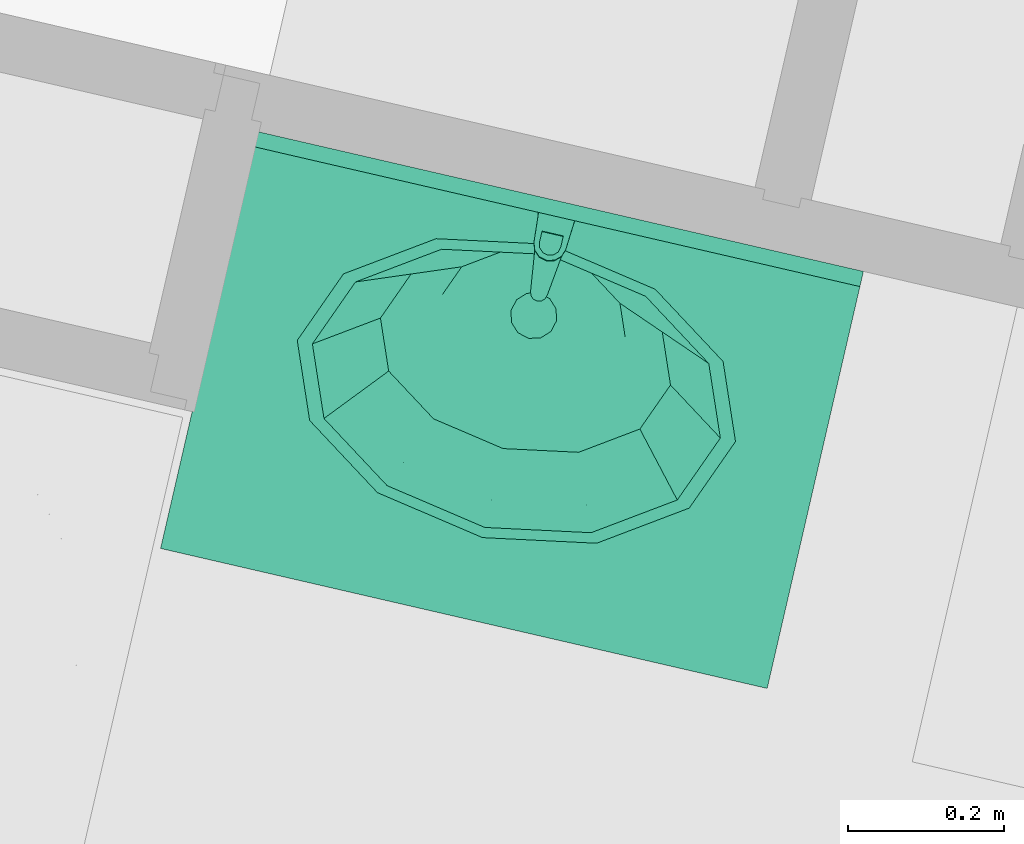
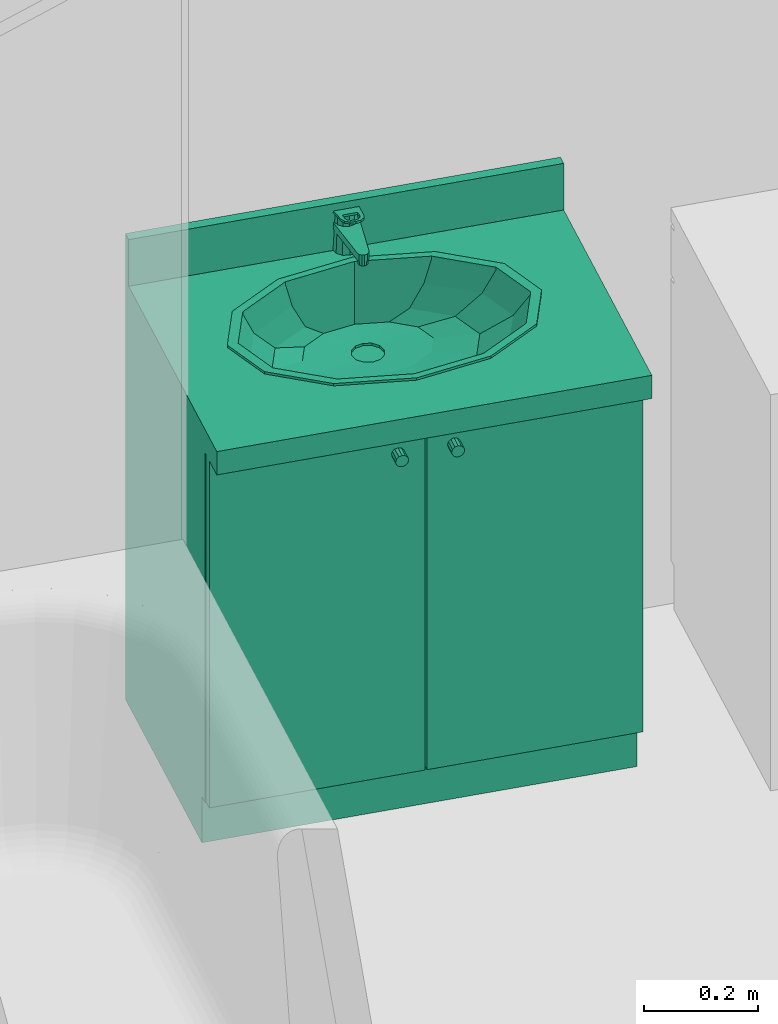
# One storey, part 47 of 62: 1 flow terminal.
"""IFC2X3 building model written with IfcOpenShell, lengths in metres."""

from ifc_helpers import new_model, entity, si_unit, converted_unit, derived_unit, money_unit, direction, frame, origin_with_axes, place, context, subcontext, project, spatial, open_shell, faceted_brep, surface_model, source, transform, mapped, type_object, element, save


model = new_model("IFC2X3")

# Units and contexts
model_context = context("Model", 3, precision=1e-05, world=origin_with_axes(), true_north=direction((0.0, 1.0)))
body_context = subcontext(model_context, "Body", "Model", "MODEL_VIEW")
ifc_project = project(units=[si_unit("LENGTHUNIT", "METRE"), si_unit("AREAUNIT", "SQUARE_METRE"), si_unit("VOLUMEUNIT", "CUBIC_METRE"), converted_unit("PLANEANGLEUNIT", "DEGREE", entity("IfcPlaneAngleMeasure", 0.0174532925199), si_unit("PLANEANGLEUNIT", "RADIAN"), dimensions=[0, 0, 0, 0, 0, 0, 0]), si_unit("SOLIDANGLEUNIT", "STERADIAN"), money_unit("EUR"), converted_unit("TIMEUNIT", "Year", entity("IfcTimeMeasure", 31556926.0), si_unit("TIMEUNIT", "SECOND"), dimensions=[0, 0, 1, 0, 0, 0, 0]), si_unit("MASSUNIT", "GRAM", prefix="KILO"), si_unit("THERMODYNAMICTEMPERATUREUNIT", "DEGREE_CELSIUS"), si_unit("LUMINOUSINTENSITYUNIT", "LUMEN"), si_unit("ENERGYUNIT", "JOULE", prefix="MEGA"), derived_unit("THERMALCONDUCTANCEUNIT", [(si_unit("POWERUNIT", "WATT"), 1), (si_unit("LENGTHUNIT", "METRE"), -1), (si_unit("THERMODYNAMICTEMPERATUREUNIT", "KELVIN"), -1)]), derived_unit("SPECIFICHEATCAPACITYUNIT", [(si_unit("ENERGYUNIT", "JOULE"), 1), (si_unit("MASSUNIT", "GRAM", prefix="KILO"), -1), (si_unit("THERMODYNAMICTEMPERATUREUNIT", "KELVIN"), -1)]), derived_unit("MASSDENSITYUNIT", [(si_unit("MASSUNIT", "GRAM", prefix="KILO"), 1), (si_unit("VOLUMEUNIT", "CUBIC_METRE"), -1)])], contexts=[model_context])

# Site, building, storey
site_placement = place(None, origin_with_axes())
site = spatial("IfcSite", under=ifc_project, at=site_placement, Name="Site", CompositionType="ELEMENT")
building_placement = place(site_placement, origin_with_axes())
building = spatial("IfcBuilding", under=site, at=building_placement, Name="Bâtiment", CompositionType="ELEMENT")
storey_placement = place(building_placement, frame((0.0, 0.0, 8.16), z_axis=(0.0, 0.0, 1.0), x_axis=(1.0, 0.0, 0.0)))
storey = spatial("IfcBuildingStorey", under=building, at=storey_placement, Name="R+3", CompositionType="ELEMENT", Elevation=8.16)

# Flow terminal
sanitary_terminal_type = type_object("IfcSanitaryTerminalType", Name="Lavabo sur meuble 23", PredefinedType="NOTDEFINED")
shared_shape = source(origin_with_axes(), body_context, "Body", "SurfaceModel", [
    faceted_brep([(0.0, 0.09, 0.0), (0.0, 0.09, 0.1), (-0.8, 0.09, 0.1), (-0.8, 0.09, 0.0), (0.0, 0.55, 0.0), (0.0, 0.55, 0.1), (-0.8, 0.55, 0.1), (-0.8, 0.55, 0.0)], [[[0, 1, 2, 3]], [[4, 5, 1, 0]], [[1, 5, 6, 2]], [[3, 2, 6, 7]], [[0, 3, 7, 4]], [[7, 6, 5, 4]]]),
    faceted_brep([(0.0, 0.07, 0.1), (0.0, 0.07, 0.12), (-0.02, 0.07, 0.12), (-0.02, 0.07, 0.1), (0.0, 0.55, 0.1), (0.0, 0.55, 0.12), (-0.02, 0.55, 0.12), (-0.78, 0.55, 0.12), (-0.8, 0.55, 0.12), (-0.8, 0.07, 0.12), (-0.78, 0.07, 0.12), (-0.78, 0.07, 0.1), (-0.8, 0.07, 0.1), (-0.8, 0.55, 0.1), (-0.78, 0.55, 0.1), (-0.02, 0.55, 0.1)], [[[0, 1, 2, 3]], [[4, 5, 1, 0]], [[1, 5, 6, 7, 8, 9, 10, 2]], [[3, 2, 10, 11]], [[0, 3, 11, 12, 13, 14, 15, 4]], [[15, 6, 5, 4]], [[14, 7, 6, 15]], [[13, 8, 7, 14]], [[12, 9, 8, 13]], [[11, 10, 9, 12]]]),
    faceted_brep([(0.0, 0.07, 0.12), (0.0, 0.07, 0.85), (-0.02, 0.07, 0.85), (-0.02, 0.07, 0.12), (0.0, 0.55, 0.12), (0.0, 0.55, 0.85), (-0.8, 0.55, 0.85), (-0.8, 0.07, 0.85), (-0.78, 0.07, 0.85), (-0.78, 0.53, 0.85), (-0.02, 0.53, 0.85), (-0.02, 0.53, 0.12), (-0.78, 0.53, 0.12), (-0.78, 0.07, 0.12), (-0.8, 0.07, 0.12), (-0.8, 0.55, 0.12)], [[[0, 1, 2, 3]], [[4, 5, 1, 0]], [[1, 5, 6, 7, 8, 9, 10, 2]], [[3, 2, 10, 11]], [[0, 3, 11, 12, 13, 14, 15, 4]], [[15, 6, 5, 4]], [[14, 7, 6, 15]], [[13, 8, 7, 14]], [[12, 9, 8, 13]], [[11, 10, 9, 12]]]),
    faceted_brep([(-0.78, 0.07, 0.323333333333), (-0.78, 0.07, 0.343333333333), (-0.78, 0.53, 0.343333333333), (-0.78, 0.53, 0.323333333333), (-0.02, 0.07, 0.323333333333), (-0.02, 0.07, 0.343333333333), (-0.02, 0.53, 0.343333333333), (-0.02, 0.53, 0.323333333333)], [[[0, 1, 2, 3]], [[4, 5, 1, 0]], [[1, 5, 6, 2]], [[3, 2, 6, 7]], [[0, 3, 7, 4]], [[7, 6, 5, 4]]]),
    faceted_brep([(-0.78, 0.07, 0.566666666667), (-0.78, 0.07, 0.586666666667), (-0.78, 0.53, 0.586666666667), (-0.78, 0.53, 0.566666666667), (-0.02, 0.07, 0.566666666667), (-0.02, 0.07, 0.586666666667), (-0.02, 0.53, 0.586666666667), (-0.02, 0.53, 0.566666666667)], [[[0, 1, 2, 3]], [[4, 5, 1, 0]], [[1, 5, 6, 2]], [[3, 2, 6, 7]], [[0, 3, 7, 4]], [[7, 6, 5, 4]]]),
    faceted_brep([(0.0, 0.55, 0.85), (0.0, 0.0, 0.85), (-0.8, 0.0, 0.85), (-0.8, 0.55, 0.85), (-0.535, 0.144115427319, 0.85), (-0.4, 0.12, 0.85), (-0.265, 0.144115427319, 0.85), (-0.166173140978, 0.21, 0.85), (-0.13, 0.3, 0.85), (-0.166173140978, 0.39, 0.85), (-0.265, 0.455884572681, 0.85), (-0.4, 0.48, 0.85), (-0.535, 0.455884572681, 0.85), (-0.633826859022, 0.39, 0.85), (-0.67, 0.3, 0.85), (-0.633826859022, 0.21, 0.85), (0.0, 0.55, 0.9), (0.0, 0.0, 0.9), (-0.8, 0.0, 0.9), (-0.8, 0.55, 0.9), (-0.4, 0.12, 0.9), (-0.535, 0.144115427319, 0.9), (-0.265, 0.144115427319, 0.9), (-0.166173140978, 0.21, 0.9), (-0.13, 0.3, 0.9), (-0.166173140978, 0.39, 0.9), (-0.265, 0.455884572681, 0.9), (-0.4, 0.48, 0.9), (-0.535, 0.455884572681, 0.9), (-0.633826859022, 0.39, 0.9), (-0.67, 0.3, 0.9), (-0.633826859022, 0.21, 0.9)], [[[0, 1, 2, 3], [4, 5, 6, 7, 8, 9, 10, 11, 12, 13, 14, 15]], [[1, 0, 16, 17]], [[2, 1, 17, 18]], [[3, 2, 18, 19]], [[0, 3, 19, 16]], [[20, 5, 4, 21]], [[22, 6, 5, 20]], [[23, 7, 6, 22]], [[24, 8, 7, 23]], [[25, 9, 8, 24]], [[26, 10, 9, 25]], [[27, 11, 10, 26]], [[28, 12, 11, 27]], [[29, 13, 12, 28]], [[30, 14, 13, 29]], [[31, 15, 14, 30]], [[21, 4, 15, 31]], [[18, 17, 16, 19], [28, 27, 26, 25, 24, 23, 22, 20, 21, 31, 30, 29]]]),
    faceted_brep([(0.0, 0.53, 0.9), (0.0, 0.53, 1.0), (-0.8, 0.53, 1.0), (-0.8, 0.53, 0.9), (0.0, 0.55, 0.9), (0.0, 0.55, 1.0), (-0.8, 0.55, 1.0), (-0.8, 0.55, 0.9)], [[[0, 1, 2, 3]], [[4, 5, 1, 0]], [[1, 5, 6, 2]], [[3, 2, 6, 7]], [[0, 3, 7, 4]], [[7, 6, 5, 4]]]),
    faceted_brep([(-0.689, 0.3, 0.905), (-0.650281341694, 0.396691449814, 0.905), (-0.650281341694, 0.396691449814, 0.9), (-0.689, 0.3, 0.9), (-0.650281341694, 0.203308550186, 0.905), (-0.5445, 0.132525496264, 0.905), (-0.4, 0.106617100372, 0.905), (-0.2555, 0.132525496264, 0.905), (-0.149718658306, 0.203308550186, 0.905), (-0.111, 0.3, 0.905), (-0.149718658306, 0.396691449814, 0.905), (-0.2555, 0.467474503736, 0.905), (-0.4, 0.493382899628, 0.905), (-0.5445, 0.467474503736, 0.905), (-0.669, 0.3, 0.905), (-0.632960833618, 0.39, 0.905), (-0.5345, 0.455884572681, 0.905), (-0.4, 0.48, 0.905), (-0.2655, 0.455884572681, 0.905), (-0.167039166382, 0.39, 0.905), (-0.131, 0.3, 0.905), (-0.167039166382, 0.21, 0.905), (-0.2655, 0.144115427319, 0.905), (-0.4, 0.12, 0.905), (-0.5345, 0.144115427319, 0.905), (-0.632960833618, 0.21, 0.905), (-0.5445, 0.467474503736, 0.9), (-0.4, 0.493382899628, 0.9), (-0.2555, 0.467474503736, 0.9), (-0.149718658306, 0.396691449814, 0.9), (-0.111, 0.3, 0.9), (-0.149718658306, 0.203308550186, 0.9), (-0.2555, 0.132525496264, 0.9), (-0.4, 0.106617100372, 0.9), (-0.5445, 0.132525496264, 0.9), (-0.650281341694, 0.203308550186, 0.9), (-0.669, 0.3, 0.9), (-0.632960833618, 0.21, 0.9), (-0.5345, 0.144115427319, 0.9), (-0.4, 0.12, 0.9), (-0.2655, 0.144115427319, 0.9), (-0.167039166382, 0.21, 0.9), (-0.131, 0.3, 0.9), (-0.167039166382, 0.39, 0.9), (-0.2655, 0.455884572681, 0.9), (-0.4, 0.48, 0.9), (-0.5345, 0.455884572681, 0.9), (-0.632960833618, 0.39, 0.9)], [[[0, 1, 2, 3]], [[0, 4, 5, 6, 7, 8, 9, 10, 11, 12, 13, 1], [14, 15, 16, 17, 18, 19, 20, 21, 22, 23, 24, 25]], [[1, 13, 26, 2]], [[3, 2, 26, 27, 28, 29, 30, 31, 32, 33, 34, 35], [36, 37, 38, 39, 40, 41, 42, 43, 44, 45, 46, 47]], [[4, 0, 3, 35]], [[5, 4, 35, 34]], [[6, 5, 34, 33]], [[7, 6, 33, 32]], [[8, 7, 32, 31]], [[9, 8, 31, 30]], [[10, 9, 30, 29]], [[11, 10, 29, 28]], [[12, 11, 28, 27]], [[13, 12, 27, 26]], [[15, 14, 36, 47]], [[16, 15, 47, 46]], [[17, 16, 46, 45]], [[18, 17, 45, 44]], [[19, 18, 44, 43]], [[20, 19, 43, 42]], [[21, 20, 42, 41]], [[22, 21, 41, 40]], [[23, 22, 40, 39]], [[24, 23, 39, 38]], [[25, 24, 38, 37]], [[14, 25, 37, 36]]]),
    surface_model("IfcShellBasedSurfaceModel", [(-0.4, 0.48, 0.9), (-0.5345, 0.455884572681, 0.9), (-0.52105, 0.458296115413, 0.848), (-0.4, 0.48, 0.848), (-0.632960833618, 0.39, 0.9), (-0.609664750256, 0.399, 0.848), (-0.2655, 0.455884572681, 0.9), (-0.27895, 0.458296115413, 0.848), (-0.669, 0.3, 0.9), (-0.6421, 0.318, 0.848), (-0.167039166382, 0.39, 0.9), (-0.190335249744, 0.399, 0.848), (-0.632960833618, 0.21, 0.9), (-0.609664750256, 0.237, 0.848), (-0.131, 0.3, 0.9), (-0.1579, 0.318, 0.848), (-0.5345, 0.144115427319, 0.9), (-0.52105, 0.177703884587, 0.848), (-0.167039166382, 0.21, 0.9), (-0.190335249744, 0.237, 0.848), (-0.4, 0.12, 0.9), (-0.4, 0.156, 0.848), (-0.2655, 0.144115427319, 0.9), (-0.27895, 0.177703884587, 0.848)], [open_shell([[[0, 1, 2, 3]], [[1, 4, 5, 2]], [[6, 0, 3, 7]], [[4, 8, 9, 5]], [[10, 6, 7, 11]], [[8, 12, 13, 9]], [[14, 10, 11, 15]], [[12, 16, 17, 13]], [[18, 14, 15, 19]], [[16, 20, 21, 17]], [[22, 18, 19, 23]], [[20, 22, 23, 21]]])]),
    surface_model("IfcShellBasedSurfaceModel", [(-0.4, 0.48, 0.848), (-0.52105, 0.458296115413, 0.848), (-0.4956295, 0.462853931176, 0.796), (-0.4, 0.48, 0.796), (-0.609664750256, 0.399, 0.848), (-0.565635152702, 0.41601, 0.796), (-0.27895, 0.458296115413, 0.848), (-0.3043705, 0.462853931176, 0.796), (-0.6421, 0.318, 0.848), (-0.591259, 0.35202, 0.796), (-0.190335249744, 0.399, 0.848), (-0.234364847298, 0.41601, 0.796), (-0.609664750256, 0.237, 0.848), (-0.565635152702, 0.28803, 0.796), (-0.1579, 0.318, 0.848), (-0.208741, 0.35202, 0.796), (-0.52105, 0.177703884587, 0.848), (-0.4956295, 0.241186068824, 0.796), (-0.190335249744, 0.237, 0.848), (-0.234364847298, 0.28803, 0.796), (-0.4, 0.156, 0.848), (-0.4, 0.22404, 0.796), (-0.27895, 0.177703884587, 0.848), (-0.3043705, 0.241186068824, 0.796)], [open_shell([[[0, 1, 2, 3]], [[1, 4, 5, 2]], [[6, 0, 3, 7]], [[4, 8, 9, 5]], [[10, 6, 7, 11]], [[8, 12, 13, 9]], [[14, 10, 11, 15]], [[12, 16, 17, 13]], [[18, 14, 15, 19]], [[16, 20, 21, 17]], [[22, 18, 19, 23]], [[20, 22, 23, 21]]])]),
    surface_model("IfcShellBasedSurfaceModel", [(-0.4, 0.48, 0.796), (-0.4956295, 0.462853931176, 0.796), (-0.460246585, 0.469197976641, 0.77), (-0.4, 0.48, 0.77), (-0.565635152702, 0.41601, 0.796), (-0.504350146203, 0.4396863, 0.77), (-0.3043705, 0.462853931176, 0.796), (-0.339753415, 0.469197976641, 0.77), (-0.591259, 0.35202, 0.796), (-0.52049317, 0.3993726, 0.77), (-0.234364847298, 0.41601, 0.796), (-0.295649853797, 0.4396863, 0.77), (-0.565635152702, 0.28803, 0.796), (-0.504350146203, 0.3590589, 0.77), (-0.208741, 0.35202, 0.796), (-0.27950683, 0.3993726, 0.77), (-0.4956295, 0.241186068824, 0.796), (-0.460246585, 0.329547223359, 0.77), (-0.234364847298, 0.28803, 0.796), (-0.295649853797, 0.3590589, 0.77), (-0.4, 0.22404, 0.796), (-0.4, 0.3187452, 0.77), (-0.3043705, 0.241186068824, 0.796), (-0.339753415, 0.329547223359, 0.77)], [open_shell([[[0, 1, 2, 3]], [[1, 4, 5, 2]], [[6, 0, 3, 7]], [[4, 8, 9, 5]], [[10, 6, 7, 11]], [[8, 12, 13, 9]], [[14, 10, 11, 15]], [[12, 16, 17, 13]], [[18, 14, 15, 19]], [[16, 20, 21, 17]], [[22, 18, 19, 23]], [[20, 22, 23, 21]]])]),
    surface_model("IfcShellBasedSurfaceModel", [(-0.4, 0.48, 0.77), (-0.460246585, 0.469197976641, 0.77), (-0.415, 0.425353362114, 0.763), (-0.425980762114, 0.4143726, 0.763), (-0.4, 0.4293726, 0.763), (-0.504350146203, 0.4396863, 0.77), (-0.339753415, 0.469197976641, 0.77), (-0.43, 0.3993726, 0.763), (-0.385, 0.425353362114, 0.763), (-0.52049317, 0.3993726, 0.77), (-0.295649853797, 0.4396863, 0.77), (-0.425980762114, 0.3843726, 0.763), (-0.374019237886, 0.4143726, 0.763), (-0.504350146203, 0.3590589, 0.77), (-0.27950683, 0.3993726, 0.77), (-0.415, 0.373391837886, 0.763), (-0.37, 0.3993726, 0.763), (-0.460246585, 0.329547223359, 0.77), (-0.295649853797, 0.3590589, 0.77), (-0.4, 0.3693726, 0.763), (-0.374019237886, 0.3843726, 0.763), (-0.4, 0.3187452, 0.77), (-0.339753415, 0.329547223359, 0.77), (-0.385, 0.373391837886, 0.763)], [open_shell([[[0, 1, 2]], [[1, 3, 2]], [[0, 2, 4]], [[1, 5, 3]], [[6, 0, 4]], [[5, 7, 3]], [[6, 4, 8]], [[5, 9, 7]], [[10, 6, 8]], [[9, 11, 7]], [[10, 8, 12]], [[9, 13, 11]], [[14, 10, 12]], [[13, 15, 11]], [[14, 12, 16]], [[13, 17, 15]], [[18, 14, 16]], [[17, 19, 15]], [[18, 16, 20]], [[17, 21, 19]], [[22, 18, 20]], [[21, 23, 19]], [[22, 20, 23]], [[21, 22, 23]]])]),
    surface_model("IfcShellBasedSurfaceModel", [(-0.43, 0.3993726, 0.763), (-0.425980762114, 0.4143726, 0.763), (-0.425980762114, 0.4143726, 0.758), (-0.43, 0.3993726, 0.758), (-0.415, 0.425353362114, 0.763), (-0.415, 0.425353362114, 0.758), (-0.4, 0.4293726, 0.758), (-0.385, 0.425353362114, 0.758), (-0.374019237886, 0.4143726, 0.758), (-0.37, 0.3993726, 0.758), (-0.374019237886, 0.3843726, 0.758), (-0.385, 0.373391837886, 0.758), (-0.4, 0.3693726, 0.758), (-0.415, 0.373391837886, 0.758), (-0.425980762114, 0.3843726, 0.758), (-0.425980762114, 0.3843726, 0.763), (-0.4, 0.4293726, 0.763), (-0.385, 0.425353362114, 0.763), (-0.374019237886, 0.4143726, 0.763), (-0.37, 0.3993726, 0.763), (-0.374019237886, 0.3843726, 0.763), (-0.385, 0.373391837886, 0.763), (-0.4, 0.3693726, 0.763), (-0.415, 0.373391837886, 0.763)], [open_shell([[[0, 1, 2, 3]], [[1, 4, 5, 2]], [[3, 2, 5, 6, 7, 8, 9, 10, 11, 12, 13, 14]], [[15, 0, 3, 14]], [[4, 16, 6, 5]], [[16, 17, 7, 6]], [[17, 18, 8, 7]], [[18, 19, 9, 8]], [[19, 20, 10, 9]], [[20, 21, 11, 10]], [[21, 22, 12, 11]], [[22, 23, 13, 12]], [[23, 15, 14, 13]]])]),
    faceted_brep([(-0.4125, 0.554150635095, 0.9), (-0.410587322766, 0.550837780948, 0.976507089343), (-0.4, 0.553701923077, 0.975961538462), (-0.4, 0.5575, 0.9), (-0.421650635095, 0.545, 0.9), (-0.418273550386, 0.543050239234, 0.977990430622), (-0.421, 0.5325, 0.98), (-0.418100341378, 0.522049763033, 0.981990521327), (-0.410414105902, 0.514462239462, 0.983435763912), (-0.4, 0.511698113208, 0.983962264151), (-0.389585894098, 0.514462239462, 0.983435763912), (-0.381899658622, 0.522049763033, 0.981990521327), (-0.379, 0.5325, 0.98), (-0.381726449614, 0.543050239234, 0.977990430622), (-0.389412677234, 0.550837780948, 0.976507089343), (-0.3875, 0.554150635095, 0.9), (-0.378349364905, 0.545, 0.9), (-0.375, 0.5325, 0.9), (-0.378349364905, 0.52, 0.9), (-0.3875, 0.510849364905, 0.9), (-0.4, 0.5075, 0.9), (-0.4125, 0.510849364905, 0.9), (-0.421650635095, 0.52, 0.9), (-0.425, 0.5325, 0.9)], [[[0, 1, 2, 3]], [[4, 5, 1, 0]], [[1, 5, 6, 7, 8, 9, 10, 11, 12, 13, 14, 2]], [[3, 2, 14, 15]], [[0, 3, 15, 16, 17, 18, 19, 20, 21, 22, 23, 4]], [[23, 6, 5, 4]], [[22, 7, 6, 23]], [[21, 8, 7, 22]], [[20, 9, 8, 21]], [[19, 10, 9, 20]], [[18, 11, 10, 19]], [[17, 12, 11, 18]], [[16, 13, 12, 17]], [[15, 14, 13, 16]]]),
    faceted_brep([(-0.409, 0.4295, 0.935), (-0.409, 0.4295, 0.945), (-0.407794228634, 0.434, 0.945), (-0.407794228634, 0.434, 0.935), (-0.407794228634, 0.425, 0.935), (-0.407794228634, 0.425, 0.945), (-0.4045, 0.421705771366, 0.945), (-0.4, 0.4205, 0.945), (-0.3955, 0.421705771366, 0.945), (-0.392205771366, 0.425, 0.945), (-0.391, 0.4295, 0.945), (-0.392205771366, 0.434, 0.945), (-0.3955, 0.437294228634, 0.945), (-0.4, 0.4385, 0.945), (-0.4045, 0.437294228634, 0.945), (-0.4045, 0.437294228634, 0.935), (-0.4, 0.4385, 0.935), (-0.3955, 0.437294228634, 0.935), (-0.392205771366, 0.434, 0.935), (-0.391, 0.4295, 0.935), (-0.392205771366, 0.425, 0.935), (-0.3955, 0.421705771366, 0.935), (-0.4, 0.4205, 0.935), (-0.4045, 0.421705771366, 0.935)], [[[0, 1, 2, 3]], [[4, 5, 1, 0]], [[1, 5, 6, 7, 8, 9, 10, 11, 12, 13, 14, 2]], [[3, 2, 14, 15]], [[0, 3, 15, 16, 17, 18, 19, 20, 21, 22, 23, 4]], [[23, 6, 5, 4]], [[22, 7, 6, 23]], [[21, 8, 7, 22]], [[20, 9, 8, 21]], [[19, 10, 9, 20]], [[18, 11, 10, 19]], [[17, 12, 11, 18]], [[16, 13, 12, 17]], [[15, 14, 13, 16]]]),
    faceted_brep([(-0.387128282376, 0.552756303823, 0.96), (-0.40000000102, 0.556499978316, 0.96), (-0.412871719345, 0.552756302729, 0.96), (-0.421727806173, 0.542693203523, 0.96), (-0.423805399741, 0.529450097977, 0.96), (-0.410912, 0.4281117, 0.96), (-0.409028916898, 0.423216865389, 0.96), (-0.405093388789, 0.419750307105, 0.96), (-0.400000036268, 0.41850003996, 0.96), (-0.394906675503, 0.419750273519, 0.96), (-0.390971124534, 0.423216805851, 0.96), (-0.389088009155, 0.428111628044, 0.96), (-0.3761946, 0.5294501, 0.96), (-0.378272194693, 0.54269320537, 0.96), (-0.411, 0.551552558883, 0.96), (-0.4, 0.5545, 0.96), (-0.389, 0.551552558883, 0.96), (-0.380947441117, 0.5435, 0.96), (-0.378, 0.5325, 0.96), (-0.380947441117, 0.5215, 0.96), (-0.389, 0.513447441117, 0.96), (-0.4, 0.5105, 0.96), (-0.411, 0.513447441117, 0.96), (-0.419052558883, 0.5215, 0.96), (-0.422, 0.5325, 0.96), (-0.419052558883, 0.5435, 0.96), (-0.387128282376, 0.552756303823, 0.945), (-0.40000000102, 0.556499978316, 0.945), (-0.412871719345, 0.552756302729, 0.945), (-0.421727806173, 0.542693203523, 0.945), (-0.423805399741, 0.529450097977, 0.945), (-0.410912, 0.4281117, 0.945), (-0.409028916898, 0.423216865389, 0.945), (-0.405093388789, 0.419750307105, 0.945), (-0.400000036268, 0.41850003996, 0.945), (-0.394906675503, 0.419750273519, 0.945), (-0.390971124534, 0.423216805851, 0.945), (-0.389088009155, 0.428111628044, 0.945), (-0.3761946, 0.5294501, 0.945), (-0.378272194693, 0.54269320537, 0.945), (-0.4, 0.55525, 0.945), (-0.411375, 0.552202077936, 0.945), (-0.388625, 0.552202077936, 0.945), (-0.380297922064, 0.543875, 0.945), (-0.37725, 0.5325, 0.945), (-0.380297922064, 0.521125, 0.945), (-0.388625, 0.512797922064, 0.945), (-0.4, 0.50975, 0.945), (-0.411375, 0.512797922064, 0.945), (-0.419702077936, 0.521125, 0.945), (-0.42275, 0.5325, 0.945), (-0.419702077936, 0.543875, 0.945)], [[[0, 1, 2, 3, 4, 5, 6, 7, 8, 9, 10, 11, 12, 13], [14, 15, 16, 17, 18, 19, 20, 21, 22, 23, 24, 25]], [[26, 27, 1, 0]], [[27, 28, 2, 1]], [[28, 29, 3, 2]], [[29, 30, 4, 3]], [[30, 31, 5, 4]], [[31, 32, 6, 5]], [[32, 33, 7, 6]], [[33, 34, 8, 7]], [[34, 35, 9, 8]], [[35, 36, 10, 9]], [[36, 37, 11, 10]], [[37, 38, 12, 11]], [[38, 39, 13, 12]], [[39, 26, 0, 13]], [[40, 15, 14, 41]], [[42, 16, 15, 40]], [[16, 42, 43, 17]], [[17, 43, 44, 18]], [[18, 44, 45, 19]], [[19, 45, 46, 20]], [[20, 46, 47, 21]], [[48, 22, 21, 47]], [[49, 23, 22, 48]], [[50, 24, 23, 49]], [[51, 25, 24, 50]], [[41, 14, 25, 51]], [[34, 33, 32, 31, 30, 29, 28, 27, 26, 39, 38, 37, 36, 35], [48, 47, 46, 45, 44, 43, 42, 40, 41, 51, 50, 49]]]),
    faceted_brep([(-0.423893, 0.53080743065, 0.980322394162), (-0.423893, 0.531555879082, 0.984251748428), (-0.421296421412, 0.544023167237, 0.981877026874), (-0.421296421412, 0.543274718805, 0.977947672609), (-0.420945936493, 0.490663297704, 0.987968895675), (-0.420945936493, 0.491411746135, 0.991898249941), (-0.417663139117, 0.48173408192, 0.993741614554), (-0.410061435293, 0.47478470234, 0.995065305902), (-0.399999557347, 0.472262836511, 0.995545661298), (-0.389937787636, 0.474785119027, 0.995065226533), (-0.382336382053, 0.481734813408, 0.993741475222), (-0.379054, 0.491412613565, 0.991898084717), (-0.376106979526, 0.531556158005, 0.984251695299), (-0.378703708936, 0.544023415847, 0.98187697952), (-0.38752831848, 0.553339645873, 0.980102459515), (-0.400000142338, 0.556780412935, 0.979447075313), (-0.41247192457, 0.553339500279, 0.980102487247), (-0.414, 0.507707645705, 0.988794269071), (-0.386, 0.507707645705, 0.988794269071), (-0.386, 0.492892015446, 0.991616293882), (-0.387875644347, 0.486015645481, 0.992926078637), (-0.393, 0.480981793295, 0.993884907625), (-0.4, 0.479139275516, 0.994235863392), (-0.407, 0.480981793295, 0.993884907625), (-0.412124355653, 0.486015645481, 0.992926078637), (-0.414, 0.492892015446, 0.991616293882), (-0.41247192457, 0.552591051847, 0.976173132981), (-0.400000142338, 0.556031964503, 0.975517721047), (-0.38752831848, 0.552591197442, 0.976173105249), (-0.378703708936, 0.543274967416, 0.977947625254), (-0.376106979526, 0.530807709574, 0.980322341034), (-0.379054, 0.490664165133, 0.987968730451), (-0.382336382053, 0.480986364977, 0.989812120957), (-0.389937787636, 0.474036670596, 0.991135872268), (-0.399999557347, 0.47151438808, 0.991616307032), (-0.410061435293, 0.474036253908, 0.991135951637), (-0.417663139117, 0.480985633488, 0.989812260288), (-0.414, 0.506959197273, 0.984864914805), (-0.414, 0.492143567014, 0.987686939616), (-0.412124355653, 0.485267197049, 0.988996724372), (-0.407, 0.480233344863, 0.989955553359), (-0.4, 0.478390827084, 0.990306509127), (-0.393, 0.480233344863, 0.989955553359), (-0.387875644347, 0.485267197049, 0.988996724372), (-0.386, 0.492143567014, 0.987686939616), (-0.386, 0.506959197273, 0.984864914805)], [[[0, 1, 2, 3]], [[4, 5, 1, 0]], [[1, 5, 6, 7, 8, 9, 10, 11, 12, 13, 14, 15, 16, 2], [17, 18, 19, 20, 21, 22, 23, 24, 25]], [[3, 2, 16, 26]], [[0, 3, 26, 27, 28, 29, 30, 31, 32, 33, 34, 35, 36, 4], [37, 38, 39, 40, 41, 42, 43, 44, 45]], [[36, 6, 5, 4]], [[35, 7, 6, 36]], [[34, 8, 7, 35]], [[33, 9, 8, 34]], [[32, 10, 9, 33]], [[31, 11, 10, 32]], [[30, 12, 11, 31]], [[29, 13, 12, 30]], [[28, 14, 13, 29]], [[27, 15, 14, 28]], [[26, 16, 15, 27]], [[45, 18, 17, 37]], [[44, 19, 18, 45]], [[43, 20, 19, 44]], [[42, 21, 20, 43]], [[41, 22, 21, 42]], [[40, 23, 22, 41]], [[39, 24, 23, 40]], [[38, 25, 24, 39]], [[37, 17, 25, 38]]]),
    faceted_brep([(-0.0015, 0.07, 0.1015), (-0.0015, 0.05, 0.1015), (-0.3985, 0.05, 0.1015), (-0.3985, 0.07, 0.1015), (-0.0015, 0.07, 0.8485), (-0.0015, 0.05, 0.8485), (-0.3985, 0.05, 0.8485), (-0.3985, 0.07, 0.8485)], [[[0, 1, 2, 3]], [[4, 5, 1, 0]], [[1, 5, 6, 2]], [[3, 2, 6, 7]], [[0, 3, 7, 4]], [[7, 6, 5, 4]]]),
    faceted_brep([(-0.358892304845, 0.05, 0.7855), (-0.3605, 0.05, 0.7915), (-0.358892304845, 0.05, 0.7975), (-0.3545, 0.05, 0.801892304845), (-0.3485, 0.05, 0.8035), (-0.3425, 0.05, 0.801892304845), (-0.338107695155, 0.05, 0.7975), (-0.3365, 0.05, 0.7915), (-0.338107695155, 0.05, 0.7855), (-0.3425, 0.05, 0.781107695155), (-0.3485, 0.05, 0.7795), (-0.3545, 0.05, 0.781107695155), (-0.358892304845, 0.025, 0.7855), (-0.3605, 0.025, 0.7915), (-0.358892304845, 0.025, 0.7975), (-0.3545, 0.025, 0.801892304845), (-0.3485, 0.025, 0.8035), (-0.3425, 0.025, 0.801892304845), (-0.338107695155, 0.025, 0.7975), (-0.3365, 0.025, 0.7915), (-0.338107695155, 0.025, 0.7855), (-0.3425, 0.025, 0.781107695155), (-0.3485, 0.025, 0.7795), (-0.3545, 0.025, 0.781107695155)], [[[0, 1, 2, 3, 4, 5, 6, 7, 8, 9, 10, 11]], [[0, 12, 13, 1]], [[1, 13, 14, 2]], [[2, 14, 15, 3]], [[3, 15, 16, 4]], [[4, 16, 17, 5]], [[5, 17, 18, 6]], [[6, 18, 19, 7]], [[7, 19, 20, 8]], [[8, 20, 21, 9]], [[9, 21, 22, 10]], [[10, 22, 23, 11]], [[11, 23, 12, 0]], [[12, 23, 22, 21, 20, 19, 18, 17, 16, 15, 14, 13]]]),
    faceted_brep([(-0.7985, 0.07, 0.1015), (-0.4015, 0.07, 0.1015), (-0.4015, 0.05, 0.1015), (-0.7985, 0.05, 0.1015), (-0.7985, 0.07, 0.8485), (-0.4015, 0.07, 0.8485), (-0.4015, 0.05, 0.8485), (-0.7985, 0.05, 0.8485)], [[[0, 1, 2, 3]], [[0, 4, 5, 1]], [[1, 5, 6, 2]], [[3, 2, 6, 7]], [[4, 0, 3, 7]], [[5, 4, 7, 6]]]),
    faceted_brep([(-0.441107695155, 0.05, 0.7855), (-0.4455, 0.05, 0.781107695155), (-0.4515, 0.05, 0.7795), (-0.4575, 0.05, 0.781107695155), (-0.461892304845, 0.05, 0.7855), (-0.4635, 0.05, 0.7915), (-0.461892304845, 0.05, 0.7975), (-0.4575, 0.05, 0.801892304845), (-0.4515, 0.05, 0.8035), (-0.4455, 0.05, 0.801892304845), (-0.441107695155, 0.05, 0.7975), (-0.4395, 0.05, 0.7915), (-0.441107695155, 0.025, 0.7855), (-0.4455, 0.025, 0.781107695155), (-0.4515, 0.025, 0.7795), (-0.4575, 0.025, 0.781107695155), (-0.461892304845, 0.025, 0.7855), (-0.4635, 0.025, 0.7915), (-0.461892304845, 0.025, 0.7975), (-0.4575, 0.025, 0.801892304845), (-0.4515, 0.025, 0.8035), (-0.4455, 0.025, 0.801892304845), (-0.441107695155, 0.025, 0.7975), (-0.4395, 0.025, 0.7915)], [[[0, 1, 2, 3, 4, 5, 6, 7, 8, 9, 10, 11]], [[1, 0, 12, 13]], [[2, 1, 13, 14]], [[3, 2, 14, 15]], [[4, 3, 15, 16]], [[5, 4, 16, 17]], [[6, 5, 17, 18]], [[7, 6, 18, 19]], [[8, 7, 19, 20]], [[9, 8, 20, 21]], [[10, 9, 21, 22]], [[11, 10, 22, 23]], [[0, 11, 23, 12]], [[12, 23, 22, 21, 20, 19, 18, 17, 16, 15, 14, 13]]]),
])
flow_terminal_placement = place(storey_placement, frame((-8.23424546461, -2.74172929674, 0.0), z_axis=(0.0, 0.0, 1.0), x_axis=(0.974387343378, -0.22487619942, 0.0)))
element("IfcFlowTerminal", 1, at=flow_terminal_placement, inside=storey, type_object=sanitary_terminal_type, Name="MOB-002", ObjectType="SANITARY_TERMINAL", context=body_context, shape_type="MappedRepresentation", body=[
    mapped(shared_shape, transform((0.0, 0.0, 0.0))),
])

save(model, "model.ifc")
